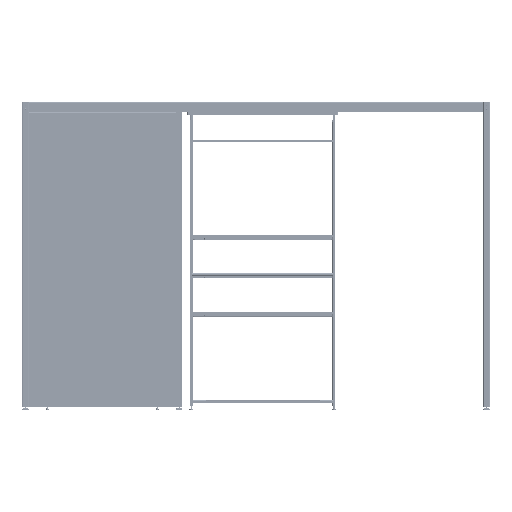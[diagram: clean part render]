
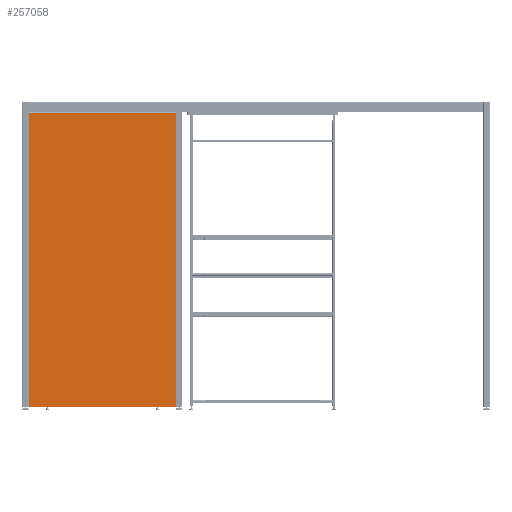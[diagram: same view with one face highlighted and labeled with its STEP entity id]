
A CAD part, left-side view. The second image highlights one B-rep face of the part: STEP entity #257058.
In plain terms, the highlighted planar face has unit normal (-1, 0, 0).
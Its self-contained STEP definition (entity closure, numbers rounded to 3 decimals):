
#49830 = VECTOR ( 'NONE', #385510, 1000. ) ;
#60411 = ORIENTED_EDGE ( 'NONE', *, *, #376427, .T. ) ;
#118406 = ORIENTED_EDGE ( 'NONE', *, *, #323476, .F. ) ;
#137654 = AXIS2_PLACEMENT_3D ( 'NONE', #226027, #358094, #471269 ) ;
#144463 = ORIENTED_EDGE ( 'NONE', *, *, #161194, .T. ) ;
#150721 = DIRECTION ( 'NONE',  ( 0., -1., 0. ) ) ;
#152914 = VERTEX_POINT ( 'NONE', #200681 ) ;
#161194 = EDGE_CURVE ( 'NONE', #258249, #152914, #278044, .T. ) ;
#187450 = CARTESIAN_POINT ( 'NONE',  ( -10189.5, -4089.5, 27. ) ) ;
#188477 = CARTESIAN_POINT ( 'NONE',  ( -10189.5, -5423.5, 2707.172 ) ) ;
#200681 = CARTESIAN_POINT ( 'NONE',  ( -10189.5, -5423.5, 27. ) ) ;
#216925 = VECTOR ( 'NONE', #322044, 1000. ) ;
#218270 = VECTOR ( 'NONE', #150721, 1000. ) ;
#226027 = CARTESIAN_POINT ( 'NONE',  ( -10189.5, -4756.5, 1367.086 ) ) ;
#245838 = DIRECTION ( 'NONE',  ( 0., 0., -1. ) ) ;
#252310 = VECTOR ( 'NONE', #245838, 1000. ) ;
#257058 = ADVANCED_FACE ( 'NONE', ( #374963 ), #385827, .T. ) ;
#258249 = VERTEX_POINT ( 'NONE', #187450 ) ;
#258917 = EDGE_CURVE ( 'NONE', #497918, #370176, #404159, .T. ) ;
#278044 = LINE ( 'NONE', #404709, #216925 ) ;
#294497 = ORIENTED_EDGE ( 'NONE', *, *, #258917, .F. ) ;
#313227 = CARTESIAN_POINT ( 'NONE',  ( -10189.5, -4089.5, 2707.172 ) ) ;
#322044 = DIRECTION ( 'NONE',  ( 0., -1., 0. ) ) ;
#323476 = EDGE_CURVE ( 'NONE', #370176, #152914, #470955, .T. ) ;
#358094 = DIRECTION ( 'NONE',  ( -1., 0., 0. ) ) ;
#369773 = CARTESIAN_POINT ( 'NONE',  ( -10189.5, -4089.5, 2709.172 ) ) ;
#370176 = VERTEX_POINT ( 'NONE', #188477 ) ;
#374963 = FACE_OUTER_BOUND ( 'NONE', #419016, .T. ) ;
#376427 = EDGE_CURVE ( 'NONE', #497918, #258249, #499248, .T. ) ;
#385510 = DIRECTION ( 'NONE',  ( 0., 0., -1. ) ) ;
#385827 = PLANE ( 'NONE',  #137654 ) ;
#404159 = LINE ( 'NONE', #520010, #218270 ) ;
#404709 = CARTESIAN_POINT ( 'NONE',  ( -10189.5, -4087.5, 27. ) ) ;
#419016 = EDGE_LOOP ( 'NONE', ( #294497, #60411, #144463, #118406 ) ) ;
#460780 = CARTESIAN_POINT ( 'NONE',  ( -10189.5, -5423.5, 2709.172 ) ) ;
#470955 = LINE ( 'NONE', #460780, #49830 ) ;
#471269 = DIRECTION ( 'NONE',  ( 0., 0., 1. ) ) ;
#497918 = VERTEX_POINT ( 'NONE', #313227 ) ;
#499248 = LINE ( 'NONE', #369773, #252310 ) ;
#520010 = CARTESIAN_POINT ( 'NONE',  ( -10189.5, -4087.5, 2707.172 ) ) ;
